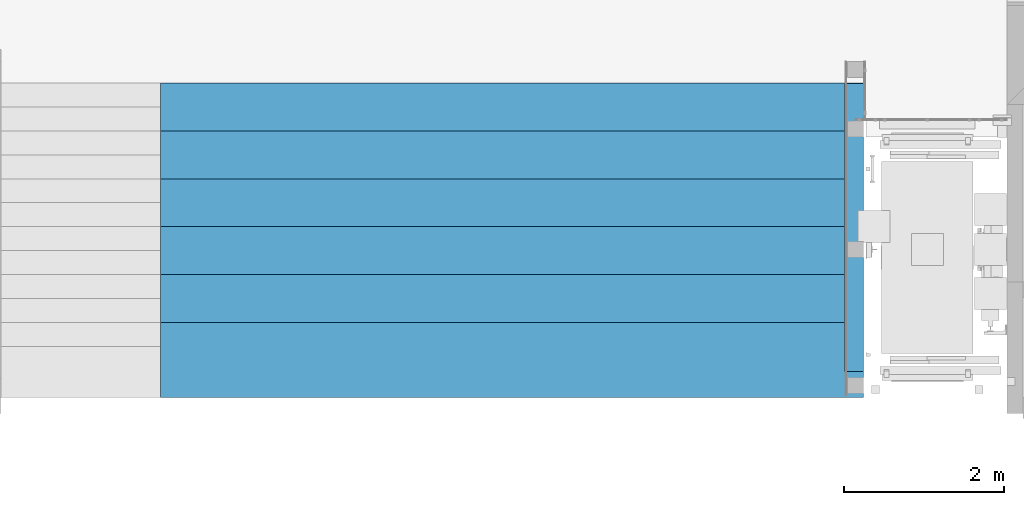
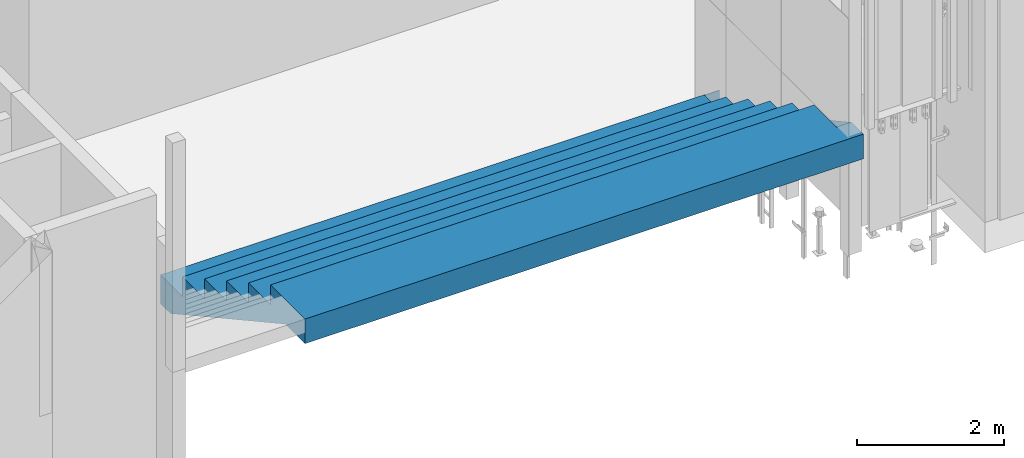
# One storey, part 46 of 89: 1 stair.
"""IFC2X3 building model written with IfcOpenShell, lengths in millimetres."""

from ifc_helpers import new_model, entity, si_unit, converted_unit, derived_unit, money_unit, direction, frame, origin_with_axes, place, context, subcontext, project, spatial, faceted_brep, material, material_list, element, save


model = new_model("IFC2X3")

# Units and contexts
model_context = context("Model", 3, precision=0.01, world=origin_with_axes(), true_north=direction((0.0, 1.0)))
body_context = subcontext(model_context, "Body", "Model", "MODEL_VIEW")
ifc_project = project(units=[si_unit("LENGTHUNIT", "METRE", prefix="MILLI"), si_unit("AREAUNIT", "SQUARE_METRE"), si_unit("VOLUMEUNIT", "CUBIC_METRE"), converted_unit("PLANEANGLEUNIT", "DEGREE", entity("IfcPlaneAngleMeasure", 0.0174532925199), si_unit("PLANEANGLEUNIT", "RADIAN"), dimensions=[0, 0, 0, 0, 0, 0, 0]), si_unit("SOLIDANGLEUNIT", "STERADIAN"), money_unit("EUR"), converted_unit("TIMEUNIT", "Year", entity("IfcTimeMeasure", 31556926.0), si_unit("TIMEUNIT", "SECOND"), dimensions=[0, 0, 1, 0, 0, 0, 0]), si_unit("MASSUNIT", "GRAM", prefix="KILO"), si_unit("THERMODYNAMICTEMPERATUREUNIT", "DEGREE_CELSIUS"), si_unit("LUMINOUSINTENSITYUNIT", "LUMEN"), si_unit("ENERGYUNIT", "JOULE", prefix="MEGA"), derived_unit("THERMALCONDUCTANCEUNIT", [(si_unit("POWERUNIT", "WATT"), 1), (si_unit("LENGTHUNIT", "METRE"), -1), (si_unit("THERMODYNAMICTEMPERATUREUNIT", "KELVIN"), -1)]), derived_unit("SPECIFICHEATCAPACITYUNIT", [(si_unit("ENERGYUNIT", "JOULE"), 1), (si_unit("MASSUNIT", "GRAM", prefix="KILO"), -1), (si_unit("THERMODYNAMICTEMPERATUREUNIT", "KELVIN"), -1)]), derived_unit("MASSDENSITYUNIT", [(si_unit("MASSUNIT", "GRAM", prefix="KILO"), 1), (si_unit("VOLUMEUNIT", "CUBIC_METRE"), -1)])], contexts=[model_context])

# Site, building, storey
site_placement = place(None, origin_with_axes())
site = spatial("IfcSite", under=ifc_project, at=site_placement, Name="Puškini 31, Narva", CompositionType="ELEMENT")
building_placement = place(site_placement, origin_with_axes())
building = spatial("IfcBuilding", under=site, at=building_placement, Name="Narva Riigigümnaasium", CompositionType="ELEMENT")
storey_placement = place(building_placement, frame((0.0, 0.0, -3300.0), z_axis=(0.0, 0.0, 1.0), x_axis=(1.0, 0.0, 0.0)))
storey = spatial("IfcBuildingStorey", under=building, at=storey_placement, Name="1.korrus -3.3", CompositionType="ELEMENT", Elevation=-3300.0)

# Stair
ifc_material_1 = material(Name="Betoon element")
ifc_material_2 = material(Name="Puit - Põrand")
ifc_material_list = material_list([ifc_material_1, ifc_material_2, ifc_material_2, ifc_material_2, ifc_material_2, ifc_material_2, ifc_material_2, ifc_material_2, ifc_material_2, ifc_material_2, ifc_material_2, ifc_material_2, ifc_material_2])
stair_placement = place(storey_placement, frame((45700.062395, 199039.487445, -6.47037978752e-10), z_axis=(0.0, 0.0, 1.0), x_axis=(-1.0, 0.0, 0.0)))
element("IfcStair", 1, at=stair_placement, inside=storey, material=ifc_material_list, Name="G-TR-03", ShapeType="NOTDEFINED", context=body_context, shape_type="Brep", body=[
    faceted_brep([(235.062396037, 3799.99999934, 1980.0), (235.062396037, 3799.99999934, 1974.50000047), (8.14793565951e-07, 3799.99999934, 1974.50000047), (8.45631120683e-07, 3799.99999934, 1970.0), (8800.00000085, 3799.99999934, 1970.0), (8800.00000085, 3799.99999934, 1980.0), (235.062396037, 3809.99999848, 1980.0), (8.14793565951e-07, 3809.99999848, 1980.0), (8.14793565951e-07, 209.999999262, 4.27508251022e-07), (8.14793565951e-07, 791.818180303, 320.0), (8.45631120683e-07, 809.999999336, 320.0), (8.14793565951e-07, 809.999999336, 330.000000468), (8.14793565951e-07, 1391.8181803, 650.0), (8.45631120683e-07, 1409.99999934, 650.0), (8.14793565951e-07, 1409.99999934, 660.000000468), (8.14793565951e-07, 1991.8181803, 980.0), (8.45631120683e-07, 2009.99999934, 980.0), (8.14793565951e-07, 2009.99999934, 990.000000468), (8.14793565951e-07, 2591.8181803, 1310.0), (8.45631120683e-07, 2609.99999934, 1310.0), (8.14793565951e-07, 2609.99999934, 1320.00000047), (8.14793565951e-07, 3191.8181803, 1640.0), (8.45631120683e-07, 3209.99999934, 1640.0), (8.14793565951e-07, 3209.99999934, 1650.00000047), (8.14793565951e-07, 3791.8181803, 1970.0), (8.45631120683e-07, 4138.99999934, 1980.0), (8.45631120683e-07, 4138.99999934, 1570.0), (8.45631120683e-07, 3601.486918, 1570.0), (8.45631120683e-07, 3599.99999934, 1569.18219474), (8.45631120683e-07, 3542.85714219, 1537.75362331), (8.45631120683e-07, 3499.99999934, 1514.18219474), (8.45631120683e-07, 3457.14285648, 1490.61076617), (8.45631120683e-07, 3399.99999934, 1459.18219474), (8.45631120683e-07, 3371.42857076, 1443.46790902), (8.45631120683e-07, 3299.99999934, 1404.18219474), (8.45631120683e-07, 3285.71428505, 1396.32505188), (8.45631120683e-07, 3199.99999934, 1349.18219474), (8.45631120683e-07, 3114.28571362, 1302.03933759), (8.45631120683e-07, 3028.57142791, 1254.89648045), (8.45631120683e-07, 2942.85714219, 1207.75362331), (8.45631120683e-07, 2857.14285648, 1160.61076617), (8.45631120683e-07, 2771.42857076, 1113.46790902), (8.45631120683e-07, 2685.71428505, 1066.32505188), (8.45631120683e-07, 2599.99999934, 1019.18219474), (8.45631120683e-07, 2514.28571362, 972.039337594), (8.45631120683e-07, 2499.99999934, 964.182194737), (8.45631120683e-07, 2428.57142791, 924.896480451), (8.45631120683e-07, 2399.99999934, 909.182194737), (8.45631120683e-07, 2342.85714219, 877.753623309), (8.45631120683e-07, 2299.99999934, 854.182194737), (8.45631120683e-07, 2257.14285648, 830.610766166), (8.45631120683e-07, 2199.99999934, 799.182194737), (8.45631120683e-07, 2171.42857076, 783.467909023), (8.45631120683e-07, 2099.99999934, 744.182194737), (8.45631120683e-07, 2085.71428505, 736.32505188), (8.45631120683e-07, 1999.99999934, 689.182194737), (8.45631120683e-07, 1899.99999934, 634.182194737), (8.45631120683e-07, 1799.99999934, 579.182194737), (8.45631120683e-07, 1699.99999934, 524.182194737), (8.45631120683e-07, 1599.99999934, 469.182194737), (8.45631120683e-07, 1499.99999934, 414.182194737), (8.45631120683e-07, 1399.99999934, 359.182194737), (8.45631120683e-07, 1314.28571362, 312.039337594), (8.45631120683e-07, 1299.99999934, 304.182194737), (8.45631120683e-07, 1228.57142791, 264.896480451), (8.45631120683e-07, 1199.99999934, 249.182194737), (8.45631120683e-07, 1142.85714219, 217.753623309), (8.45631120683e-07, 1099.99999934, 194.182194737), (8.45631120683e-07, 1057.14285648, 170.610766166), (8.45624015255e-07, 999.999999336, 139.182194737), (8.45624015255e-07, 971.428570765, 123.467909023), (8.45624015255e-07, 899.999999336, 84.1821947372), (8.45624015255e-07, 885.714285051, 76.32505188), (8.45624015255e-07, 799.999999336, 29.1821947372), (8.45631120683e-07, 714.285713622, -17.9606624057), (8.45631120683e-07, 699.999999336, -25.8178052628), (8.45631120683e-07, 628.571427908, -65.1035195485), (8.45631120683e-07, 599.999999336, -80.8178052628), (8.45631120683e-07, 542.857142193, -112.246376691), (8.45631120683e-07, 499.999999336, -135.817805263), (8.45631120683e-07, 474.214190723, -150.0), (8.45631120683e-07, 199.999999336, -150.0), (8.45631120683e-07, 199.999999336, -10.0), (8.45631120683e-07, 209.999999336, -10.0), (235.062396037, 3791.8181803, 1970.0), (235.062396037, 3209.99999934, 1970.0), (8800.00000085, 3209.99999934, 1970.0), (8800.00000085, 3209.99999934, 1640.0), (8800.00000085, 2609.99999934, 1640.0), (8800.00000085, 2609.99999934, 1310.0), (8800.00000085, 2009.99999934, 1310.0), (8800.00000085, 2009.99999934, 980.0), (8800.00000085, 1409.99999934, 980.0), (8800.00000085, 1409.99999934, 650.0), (8800.00000085, 809.999999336, 650.0), (8800.00000085, 809.999999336, 320.0), (8800.00000085, 209.999999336, 320.0), (8800.00000085, 209.999999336, -10.0), (8800.00000085, 199.999999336, -10.0), (8800.00000085, 199.999999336, -150.0), (8800.00000085, 474.214190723, -150.0), (8800.00000085, 499.999999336, -135.817805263), (8800.00000085, 542.857142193, -112.246376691), (8800.00000085, 599.999999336, -80.8178052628), (8800.00000085, 628.571427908, -65.1035195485), (8800.00000085, 699.999999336, -25.8178052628), (8800.00000085, 714.285713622, -17.9606624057), (8800.00000085, 799.999999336, 29.1821947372), (8800.00000085, 885.714285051, 76.32505188), (8800.00000085, 899.999999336, 84.1821947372), (8800.00000085, 971.428570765, 123.467909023), (8800.00000085, 999.999999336, 139.182194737), (8800.00000085, 1057.14285648, 170.610766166), (8800.00000085, 1099.99999934, 194.182194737), (8800.00000085, 1142.85714219, 217.753623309), (8800.00000085, 1199.99999934, 249.182194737), (8800.00000085, 1228.57142791, 264.896480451), (8800.00000085, 1299.99999934, 304.182194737), (8800.00000085, 1314.28571362, 312.039337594), (8800.00000085, 1399.99999934, 359.182194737), (8800.00000085, 1499.99999934, 414.182194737), (8800.00000085, 1599.99999934, 469.182194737), (8800.00000085, 1699.99999934, 524.182194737), (8800.00000085, 1799.99999934, 579.182194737), (8800.00000085, 1899.99999934, 634.182194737), (8800.00000085, 1999.99999934, 689.182194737), (8800.00000085, 2085.71428505, 736.32505188), (8800.00000085, 2099.99999934, 744.182194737), (8800.00000085, 2171.42857076, 783.467909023), (8800.00000085, 2199.99999934, 799.182194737), (8800.00000085, 2257.14285648, 830.610766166), (8800.00000085, 2299.99999934, 854.182194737), (8800.00000085, 2342.85714219, 877.753623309), (8800.00000085, 2399.99999934, 909.182194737), (8800.00000085, 2428.57142791, 924.896480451), (8800.00000085, 2499.99999934, 964.182194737), (8800.00000085, 2514.28571362, 972.039337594), (8800.00000085, 2599.99999934, 1019.18219474), (8800.00000085, 2685.71428505, 1066.32505188), (8800.00000085, 2771.42857076, 1113.46790902), (8800.00000085, 2857.14285648, 1160.61076617), (8800.00000085, 2942.85714219, 1207.75362331), (8800.00000085, 3028.57142791, 1254.89648045), (8800.00000085, 3114.28571362, 1302.03933759), (8800.00000085, 3199.99999934, 1349.18219474), (8800.00000085, 3285.71428505, 1396.32505188), (8800.00000085, 3299.99999934, 1404.18219474), (8800.00000085, 3371.42857076, 1443.46790902), (8800.00000085, 3399.99999934, 1459.18219474), (8800.00000085, 3457.14285648, 1490.61076617), (8800.00000085, 3499.99999934, 1514.18219474), (8800.00000085, 3542.85714219, 1537.75362331), (8800.00000085, 3599.99999934, 1569.18219474), (8800.00000085, 3601.486918, 1570.0), (8800.00000085, 4138.99999934, 1570.0), (8800.00000085, 4138.99999934, 1980.0), (235.062396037, 209.999999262, 4.27508251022e-07), (235.062396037, 791.818180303, 320.0), (235.062396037, 209.999999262, 320.0), (235.062396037, 809.999999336, 650.0), (235.062396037, 809.999999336, 330.000000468), (235.062396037, 1391.8181803, 650.0), (235.062396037, 1409.99999934, 980.0), (235.062396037, 1409.99999934, 660.000000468), (235.062396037, 1991.8181803, 980.0), (235.062396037, 2009.99999934, 1310.0), (235.062396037, 2009.99999934, 990.000000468), (235.062396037, 2591.8181803, 1310.0), (235.062396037, 2609.99999934, 1640.0), (235.062396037, 2609.99999934, 1320.00000047), (235.062396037, 3191.8181803, 1640.0), (235.062396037, 3209.99999934, 1650.00000047)], [[[0, 1, 2, 3, 4, 5]], [[1, 0, 6]], [[7, 2, 1, 6]], [[8, 9, 10, 11, 12, 13, 14, 15, 16, 17, 18, 19, 20, 21, 22, 23, 24, 3, 2, 7, 25, 26, 27, 28, 29, 30, 31, 32, 33, 34, 35, 36, 37, 38, 39, 40, 41, 42, 43, 44, 45, 46, 47, 48, 49, 50, 51, 52, 53, 54, 55, 56, 57, 58, 59, 60, 61, 62, 63, 64, 65, 66, 67, 68, 69, 70, 71, 72, 73, 74, 75, 76, 77, 78, 79, 80, 81, 82, 83]], [[84, 85, 86, 4, 3, 24]], [[5, 4, 86, 87, 88, 89, 90, 91, 92, 93, 94, 95, 96, 97, 98, 99, 100, 101, 102, 103, 104, 105, 106, 107, 108, 109, 110, 111, 112, 113, 114, 115, 116, 117, 118, 119, 120, 121, 122, 123, 124, 125, 126, 127, 128, 129, 130, 131, 132, 133, 134, 135, 136, 137, 138, 139, 140, 141, 142, 143, 144, 145, 146, 147, 148, 149, 150, 151, 152, 153, 154, 155]], [[6, 0, 5, 155, 25, 7]], [[9, 8, 156, 157]], [[157, 158, 96, 95, 10, 9]], [[159, 160, 11, 10, 95, 94]], [[12, 11, 160, 161]], [[161, 159, 94, 93, 13, 12]], [[162, 163, 14, 13, 93, 92]], [[15, 14, 163, 164]], [[164, 162, 92, 91, 16, 15]], [[165, 166, 17, 16, 91, 90]], [[18, 17, 166, 167]], [[167, 165, 90, 89, 19, 18]], [[168, 169, 20, 19, 89, 88]], [[21, 20, 169, 170]], [[170, 168, 88, 87, 22, 21]], [[85, 171, 23, 22, 87, 86]], [[24, 23, 171, 84]], [[25, 155, 154, 26]], [[26, 154, 153, 27]], [[152, 28, 27, 153]], [[28, 152, 151, 29]], [[29, 151, 150, 30]], [[30, 150, 149, 31]], [[31, 149, 148, 32]], [[32, 148, 147, 33]], [[33, 147, 146, 34]], [[34, 146, 145, 35]], [[35, 145, 144, 36]], [[36, 144, 143, 37]], [[37, 143, 142, 38]], [[38, 142, 141, 39]], [[39, 141, 140, 40]], [[40, 140, 139, 41]], [[41, 139, 138, 42]], [[42, 138, 137, 43]], [[43, 137, 136, 44]], [[44, 136, 135, 45]], [[45, 135, 134, 46]], [[46, 134, 133, 47]], [[47, 133, 132, 48]], [[48, 132, 131, 49]], [[49, 131, 130, 50]], [[50, 130, 129, 51]], [[51, 129, 128, 52]], [[52, 128, 127, 53]], [[53, 127, 126, 54]], [[54, 126, 125, 55]], [[55, 125, 124, 56]], [[56, 124, 123, 57]], [[57, 123, 122, 58]], [[58, 122, 121, 59]], [[59, 121, 120, 60]], [[60, 120, 119, 61]], [[61, 119, 118, 62]], [[62, 118, 117, 63]], [[63, 117, 116, 64]], [[64, 116, 115, 65]], [[65, 115, 114, 66]], [[66, 114, 113, 67]], [[67, 113, 112, 68]], [[68, 112, 111, 69]], [[69, 111, 110, 70]], [[70, 110, 109, 71]], [[71, 109, 108, 72]], [[72, 108, 107, 73]], [[73, 107, 106, 74]], [[74, 106, 105, 75]], [[75, 105, 104, 76]], [[76, 104, 103, 77]], [[77, 103, 102, 78]], [[78, 102, 101, 79]], [[79, 101, 100, 80]], [[80, 100, 99, 81]], [[98, 82, 81, 99]], [[98, 97, 83, 82]], [[158, 156, 8, 83, 97, 96]], [[171, 85, 84]], [[156, 158, 157]], [[160, 159, 161]], [[163, 162, 164]], [[166, 165, 167]], [[169, 168, 170]]]),
    faceted_brep([(8.45631120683e-07, 209.999999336, 320.0), (8.45631120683e-07, 199.999999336, 320.0), (8800.00000085, 199.999999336, 320.0), (8800.00000085, 209.999999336, 320.0), (8.45631120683e-07, 199.999999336, 0.0), (8.45631120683e-07, 209.999999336, 0.0), (8800.00000085, 199.999999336, 0.0), (8800.00000085, 209.999999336, 0.0)], [[[0, 1, 2, 3]], [[4, 1, 0, 5]], [[1, 4, 6, 2]], [[3, 2, 6, 7]], [[5, 0, 3, 7]], [[4, 5, 7, 6]]]),
    faceted_brep([(235.062396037, 809.999999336, 650.0), (235.062396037, 799.999999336, 650.0), (8800.00000085, 799.999999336, 650.0), (8800.00000085, 809.999999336, 650.0), (235.062396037, 799.999999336, 330.0), (235.062396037, 809.999999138, 330.00000036), (8800.00000085, 799.999999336, 330.0), (8800.00000085, 809.999999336, 330.0)], [[[0, 1, 2, 3]], [[4, 1, 0, 5]], [[1, 4, 6, 2]], [[3, 2, 6, 7]], [[5, 0, 3, 7]], [[4, 5, 7, 6]]]),
    faceted_brep([(235.062396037, 1409.99999934, 980.0), (235.062396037, 1399.99999934, 980.0), (8800.00000085, 1399.99999934, 980.0), (8800.00000085, 1409.99999934, 980.0), (235.062396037, 1399.99999934, 660.0), (235.062396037, 1409.99999914, 660.00000036), (8800.00000085, 1399.99999934, 660.0), (8800.00000085, 1409.99999934, 660.0)], [[[0, 1, 2, 3]], [[4, 1, 0, 5]], [[1, 4, 6, 2]], [[3, 2, 6, 7]], [[5, 0, 3, 7]], [[4, 5, 7, 6]]]),
    faceted_brep([(235.062396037, 2009.99999934, 1310.0), (235.062396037, 1999.99999934, 1310.0), (8800.00000085, 1999.99999934, 1310.0), (8800.00000085, 2009.99999934, 1310.0), (235.062396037, 1999.99999934, 990.0), (235.062396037, 2009.99999914, 990.00000036), (8800.00000085, 1999.99999934, 990.0), (8800.00000085, 2009.99999934, 990.0)], [[[0, 1, 2, 3]], [[4, 1, 0, 5]], [[1, 4, 6, 2]], [[3, 2, 6, 7]], [[5, 0, 3, 7]], [[4, 5, 7, 6]]]),
    faceted_brep([(235.062396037, 2609.99999934, 1640.0), (235.062396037, 2599.99999934, 1640.0), (8800.00000085, 2599.99999934, 1640.0), (8800.00000085, 2609.99999934, 1640.0), (235.062396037, 2599.99999934, 1320.0), (235.062396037, 2609.99999914, 1320.00000036), (8800.00000085, 2599.99999934, 1320.0), (8800.00000085, 2609.99999934, 1320.0)], [[[0, 1, 2, 3]], [[4, 1, 0, 5]], [[1, 4, 6, 2]], [[3, 2, 6, 7]], [[5, 0, 3, 7]], [[4, 5, 7, 6]]]),
    faceted_brep([(235.062396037, 3209.99999934, 1970.0), (235.062396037, 3199.99999934, 1970.0), (8800.00000085, 3199.99999934, 1970.0), (8800.00000085, 3209.99999934, 1970.0), (235.062396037, 3199.99999934, 1650.0), (235.062396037, 3209.99999914, 1650.00000036), (8800.00000085, 3199.99999934, 1650.0), (8800.00000085, 3209.99999934, 1650.0)], [[[0, 1, 2, 3]], [[4, 1, 0, 5]], [[1, 4, 6, 2]], [[3, 2, 6, 7]], [[5, 0, 3, 7]], [[4, 5, 7, 6]]]),
    faceted_brep([(235.062396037, 809.999999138, 330.00000036), (235.062396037, 209.999999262, 330.0), (8.14793565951e-07, 209.999999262, 330.0), (8.45631120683e-07, 199.999999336, 330.0), (8800.00000085, 199.999999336, 330.0), (8800.00000085, 809.999999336, 330.0), (235.062396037, 791.818180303, 320.0), (235.062396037, 209.999999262, 320.0), (8.14793565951e-07, 209.999999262, 320.0), (8.45631120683e-07, 199.999999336, 320.0), (8800.00000085, 199.999999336, 320.0), (8800.00000085, 809.999999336, 320.0), (8.14793565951e-07, 809.999999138, 330.00000036), (8.45631120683e-07, 809.999999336, 320.0), (8.14793565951e-07, 791.818180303, 320.0)], [[[0, 1, 2, 3, 4, 5]], [[1, 0, 6, 7]], [[8, 2, 1, 7]], [[2, 8, 9, 3]], [[9, 10, 4, 3]], [[10, 11, 5, 4]], [[12, 0, 5, 11, 13]], [[12, 14, 6, 0]], [[6, 14, 13, 11, 10, 9, 8, 7]], [[14, 12, 13]]]),
    faceted_brep([(235.062396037, 799.999999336, 650.0), (235.062396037, 1391.8181803, 650.0), (8.14793565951e-07, 1391.8181803, 650.0), (8.45631120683e-07, 1409.99999934, 650.0), (8800.00000085, 1409.99999934, 650.0), (8800.00000085, 799.999999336, 650.0), (235.062396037, 799.999999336, 660.0), (235.062396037, 1409.99999914, 660.00000036), (8.14793565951e-07, 1409.99999914, 660.00000036), (8800.00000085, 1409.99999934, 660.0), (8800.00000085, 799.999999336, 660.0)], [[[0, 1, 2, 3, 4, 5]], [[0, 6, 7, 1]], [[8, 2, 1, 7]], [[2, 8, 3]], [[8, 7, 9, 4, 3]], [[5, 4, 9, 10]], [[6, 0, 5, 10]], [[7, 6, 10, 9]]]),
    faceted_brep([(235.062396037, 1399.99999934, 980.0), (235.062396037, 1991.8181803, 980.0), (8.14793565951e-07, 1991.8181803, 980.0), (8.45631120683e-07, 2009.99999934, 980.0), (8800.00000085, 2009.99999934, 980.0), (8800.00000085, 1399.99999934, 980.0), (235.062396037, 1399.99999934, 990.0), (235.062396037, 2009.99999914, 990.00000036), (8.14793565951e-07, 2009.99999914, 990.00000036), (8800.00000085, 2009.99999934, 990.0), (8800.00000085, 1399.99999934, 990.0)], [[[0, 1, 2, 3, 4, 5]], [[0, 6, 7, 1]], [[8, 2, 1, 7]], [[2, 8, 3]], [[8, 7, 9, 4, 3]], [[5, 4, 9, 10]], [[6, 0, 5, 10]], [[7, 6, 10, 9]]]),
    faceted_brep([(235.062396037, 1999.99999934, 1310.0), (235.062396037, 2591.8181803, 1310.0), (8.14793565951e-07, 2591.8181803, 1310.0), (8.45631120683e-07, 2609.99999934, 1310.0), (8800.00000085, 2609.99999934, 1310.0), (8800.00000085, 1999.99999934, 1310.0), (235.062396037, 1999.99999934, 1320.0), (235.062396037, 2609.99999914, 1320.00000036), (8.14793565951e-07, 2609.99999914, 1320.00000036), (8800.00000085, 2609.99999934, 1320.0), (8800.00000085, 1999.99999934, 1320.0)], [[[0, 1, 2, 3, 4, 5]], [[0, 6, 7, 1]], [[8, 2, 1, 7]], [[2, 8, 3]], [[8, 7, 9, 4, 3]], [[5, 4, 9, 10]], [[6, 0, 5, 10]], [[7, 6, 10, 9]]]),
    faceted_brep([(235.062396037, 2599.99999934, 1640.0), (235.062396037, 3191.8181803, 1640.0), (8.14793565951e-07, 3191.8181803, 1640.0), (8.45631120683e-07, 3209.99999934, 1640.0), (8800.00000085, 3209.99999934, 1640.0), (8800.00000085, 2599.99999934, 1640.0), (235.062396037, 2599.99999934, 1650.0), (235.062396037, 3209.99999914, 1650.00000036), (8.14793565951e-07, 3209.99999914, 1650.00000036), (8800.00000085, 3209.99999934, 1650.0), (8800.00000085, 2599.99999934, 1650.0)], [[[0, 1, 2, 3, 4, 5]], [[0, 6, 7, 1]], [[8, 2, 1, 7]], [[2, 8, 3]], [[8, 7, 9, 4, 3]], [[5, 4, 9, 10]], [[6, 0, 5, 10]], [[7, 6, 10, 9]]]),
    faceted_brep([(235.062396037, 3199.99999934, 1970.0), (235.062396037, 3791.8181803, 1970.0), (8.14793565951e-07, 3791.8181803, 1970.0), (8.45631120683e-07, 3799.99999934, 1970.0), (8800.00000085, 3799.99999934, 1970.0), (8800.00000085, 3199.99999934, 1970.0), (235.062396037, 3199.99999934, 1980.0), (235.062396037, 3799.99999934, 1980.0), (235.062396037, 3799.99999934, 1974.50000047), (8.14793565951e-07, 3799.99999934, 1974.50000047), (8800.00000085, 3799.99999934, 1980.0), (8800.00000085, 3199.99999934, 1980.0)], [[[0, 1, 2, 3, 4, 5]], [[0, 6, 7, 8, 1]], [[9, 2, 1, 8]], [[2, 9, 3]], [[8, 7, 10, 4, 3, 9]], [[5, 4, 10, 11]], [[6, 0, 5, 11]], [[7, 6, 11, 10]]]),
])

save(model, "model.ifc")
